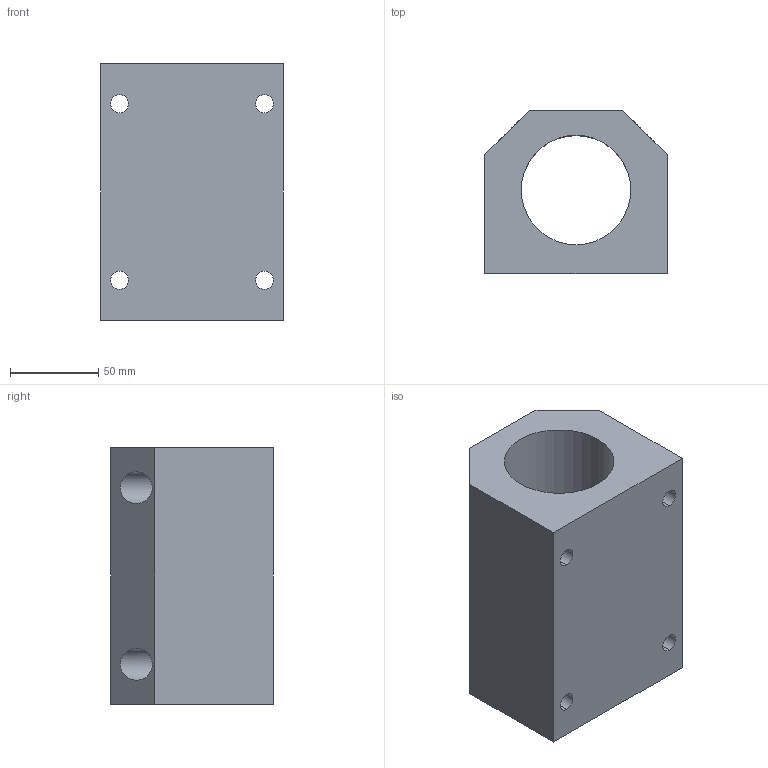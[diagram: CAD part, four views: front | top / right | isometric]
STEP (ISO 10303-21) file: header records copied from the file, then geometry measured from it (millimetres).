
FILE_DESCRIPTION (( 'STEP AP203' ), '1' );
FILE_NAME ('KTGC29-50.SLDPRT.step', '2020-05-14T12:21:26', ( '' ), ( '' ), 'SwSTEP 2.0', 'SolidWorks 2019', '' );
FILE_SCHEMA (( 'CONFIG_CONTROL_DESIGN' ));
Length unit declared in the file: millimetre
Products named in the file (2): KTGC29-50.SLDPRT
Bounding box: 103 x 92 x 145 mm (x, y, z)
Volume: 797790.2 mm3; surface area: 104600.2 mm2
Topology: 1 solids, 1 shells, 36 faces, 86 edges, 56 vertices
Faces by surface type: cylinder 22, plane 12, cone 2
Entity records: 1281 total; most frequent: CARTESIAN_POINT 258, DIRECTION 186, ORIENTED_EDGE 172, EDGE_CURVE 86, AXIS2_PLACEMENT_3D 72, VERTEX_POINT 56, EDGE_LOOP 52, LINE 42
